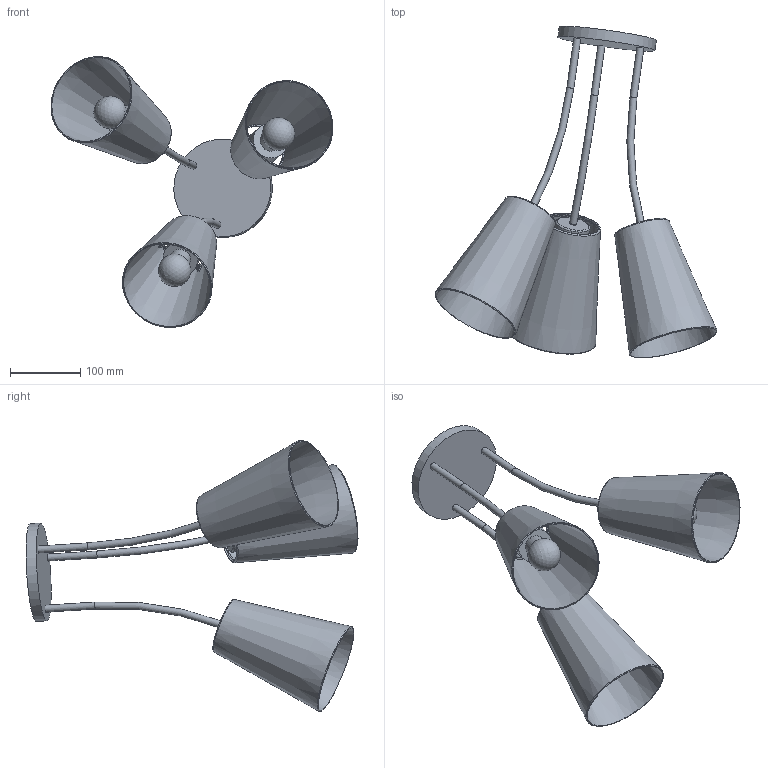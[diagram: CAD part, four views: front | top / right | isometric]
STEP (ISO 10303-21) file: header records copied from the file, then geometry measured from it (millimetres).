
FILE_DESCRIPTION(/* description */ (''),/* implementation_level */ '2;1');
FILE_NAME(/* name */ 'D:\TK Lighting\2021\_Wire Gold\Wire Gold 827.stp',/* time_stamp */ '2021-04-06T00:03:02+02:00',/* author */ ('Admin'),/* organization */ (''),/* preprocessor_version */ 'ST-DEVELOPER v16.5',/* originating_system */ 'Autodesk Inventor 2017',/* authorisation */ '');
FILE_SCHEMA (('AUTOMOTIVE_DESIGN { 1 0 10303 214 3 1 1 }'));
Products named in the file (3): Wire Gold 827; Podsufitka_3; Klosz Wire Gold 827
Assembly tree (4 placements, depth 2):
  Wire Gold 827
    Podsufitka_3
    Klosz Wire Gold 827  x3
Bounding box: 402.47 x 473.91 x 386.45 mm (x, y, z)
Volume: 1062724.7 mm3; surface area: 507745.5 mm2
Topology: 7 solids, 10 shells, 159 faces, 378 edges, 248 vertices
Faces by surface type: plane 110, cylinder 22, torus 12, cone 9, sphere 6
Full cylindrical faces by diameter (mm): 2 x3, 10 x6, 29.255 x3, 30.055 x3, 50 x3, 75 x3, 140 x1
Entity records: 1814 total; most frequent: DIRECTION 293, CARTESIAN_POINT 287, ORIENTED_EDGE 236, EDGE_CURVE 115, AXIS2_PLACEMENT_3D 112, EDGE_LOOP 100, VERTEX_POINT 88, LINE 69
